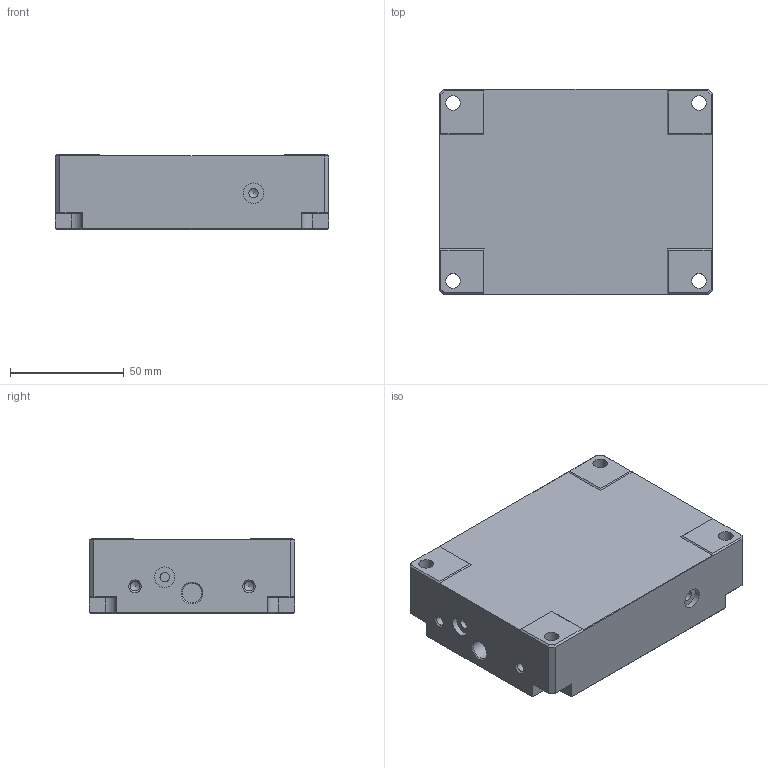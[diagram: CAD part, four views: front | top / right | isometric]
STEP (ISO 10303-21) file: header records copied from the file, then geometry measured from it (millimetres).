
FILE_DESCRIPTION(/* description */ ('Assieme'),/* implementation_level */ '2;1');
FILE_NAME(/* name */ 'C:\VAULT\ARCHIVIO\MAGER\PATTINI\CARTELLA COSTRUZIONE PATTINI HRA\HRA2010\WF10100H3300_AIRPAD HRA-2010FAN.stp',/* time_stamp */ '2021-02-22T11:00:26+01:00',/* author */ ('Roberto Cucit'),/* organization */ (''),/* preprocessor_version */ 'ST-DEVELOPER v17',/* originating_system */ 'Autodesk Inventor 2018',/* authorisation */ '');
FILE_SCHEMA (('AUTOMOTIVE_DESIGN { 1 0 10303 214 3 1 1 }'));
Length unit declared in the file: millimetre
Products named in the file (2): WF10100H3300_AIRPAD HRA-2010FA; WLP0100H33000_AIRPAD HRA-2010FA_corpo
Assembly tree (1 placements, depth 2):
  WF10100H3300_AIRPAD HRA-2010FA
    WLP0100H33000_AIRPAD HRA-2010FA_corpo
Bounding box: 120 x 90 x 33 mm (x, y, z)
Volume: 338328.5 mm3; surface area: 39942.9 mm2
Topology: 1 solids, 1 shells, 124 faces, 326 edges, 214 vertices
Faces by surface type: plane 76, cylinder 26, cone 22
Full cylindrical faces by diameter (mm): 4.134 x8, 6.4 x4, 8.566 x6, 9 x4
Entity records: 3877 total; most frequent: DIRECTION 678, CARTESIAN_POINT 659, ORIENTED_EDGE 636, EDGE_CURVE 318, AXIS2_PLACEMENT_3D 233, VERTEX_POINT 214, LINE 212, VECTOR 212
